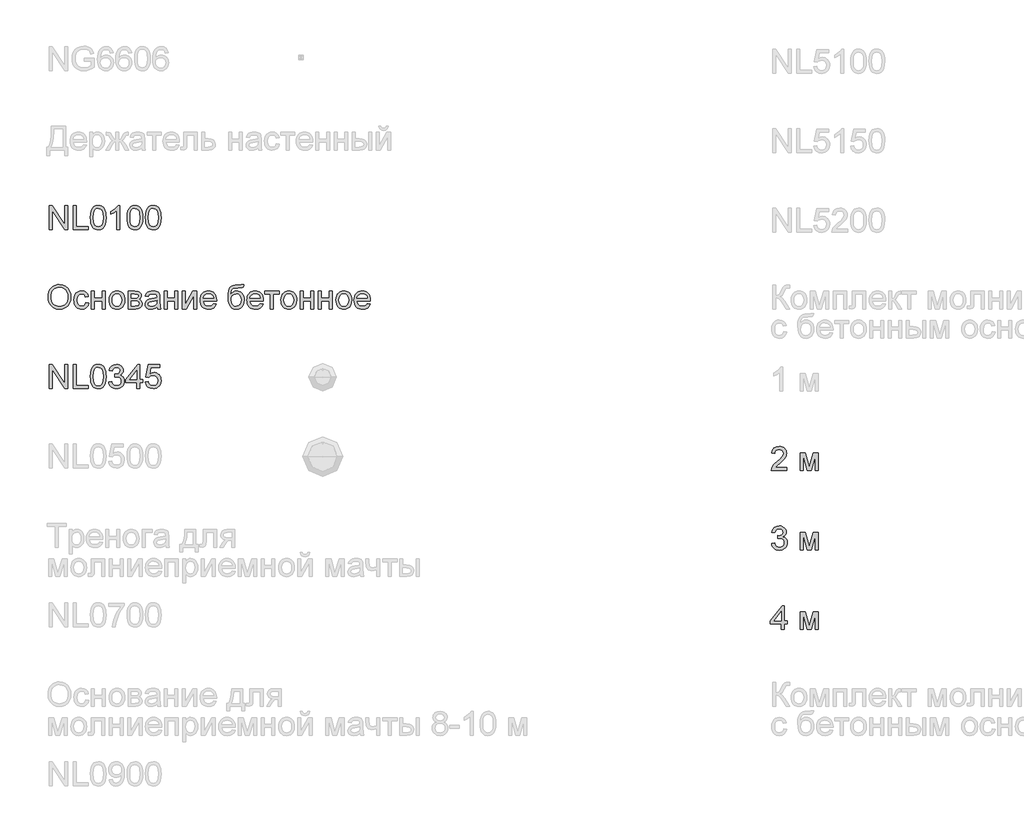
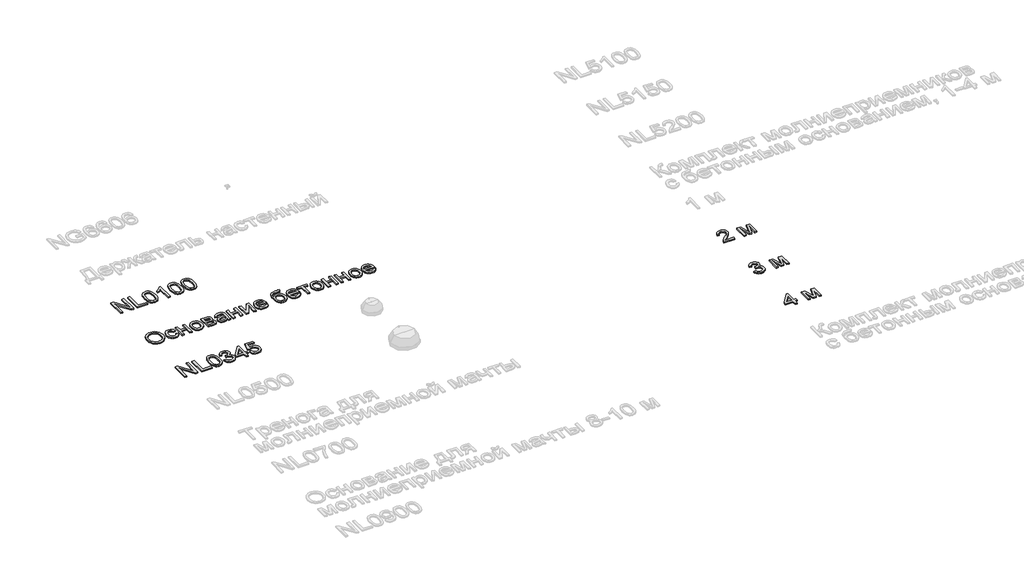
# One storey, part 58 of 124: 6 proxies.
"""IFC4 building model written with IfcOpenShell, lengths in millimetres."""

from ifc_helpers import new_model, si_unit, origin, origin_with_axes, place, context, project, spatial, polyline, outline, extrude, element, save

model = new_model("IFC4")

# Units and contexts
model_context = context("Model", 3, world=origin())
ifc_project = project(units=[si_unit("LENGTHUNIT", "METRE", prefix="MILLI")], contexts=[model_context])

# Site, building, storey
site = spatial("IfcSite", under=ifc_project)
building = spatial("IfcBuilding", under=site)
storey = spatial("IfcBuildingStorey", under=building, Name="Этаж 01", Elevation=0.0)

# Proxies
placement = place(None, origin())
element("IfcBuildingElementProxy", 1, Name="300", ObjectType="300", at=placement, inside=storey, context=model_context, shape_type="SweptSolid", body=[
    extrude(outline(polyline([(1285.6953991, -54927.7870223), (1288.2061937, -54892.4381611), (1295.7385775, -54861.1451989), (1308.2925506, -54833.9081357), (1325.868113, -54810.7269715), (1347.4122023, -54792.2179086), (1371.8717564, -54778.9971494), (1399.2467754, -54771.0646939), (1429.5372592, -54768.420542), (1469.0661796, -54773.3869489), (1504.5116098, -54788.2861698), (1533.9421694, -54812.0697407), (1555.4264779, -54843.6891982), (1568.5598652, -54881.6178319), (1572.9376609, -54924.3289316), (1568.3299389, -54967.6102483), (1554.506773, -55006.0723109), (1532.2315181, -55037.7469507), (1502.2675296, -55060.665999), (1467.1256021, -55074.5719384), (1429.31653, -55079.2072515), (1389.1806043, -55074.0844948), (1353.532839, -55058.7162244), (1324.1758558, -55034.491195), (1302.9122765, -55002.7981611), (1289.9996184, -54966.3318584), (1285.6953991, -54927.7870223)]), holes=[polyline([(1323.3665154, -54928.1549043), (1325.2496113, -54953.1294933), (1330.8988992, -54975.298982), (1340.3143791, -54994.6633705), (1353.4960508, -55011.2226588), (1369.5196109, -55024.4848048), (1387.460756, -55033.9577661), (1407.3194859, -55039.641543), (1429.0958008, -55041.5361352), (1451.2445962, -55039.6231489), (1471.3378509, -55033.8841897), (1489.375565, -55024.3192579), (1505.3577384, -55010.9283532), (1518.4428411, -54994.019577), (1527.7893431, -54973.9010304), (1533.3972442, -54950.5727134), (1535.2665446, -54924.034626), (1532.0659712, -54890.6861231), (1522.4642512, -54861.8625688), (1506.7097047, -54838.2905299), (1485.0506523, -54820.6965735), (1458.9218336, -54809.7428871), (1429.7579884, -54806.0916583), (1408.7381309, -54807.8505941), (1389.2357866, -54813.1274015), (1371.2509556, -54821.9220804), (1354.7836378, -54834.234631), (1341.0386467, -54850.6582628), (1331.220796, -54871.7861856), (1325.3300855, -54897.6183995), (1323.3665154, -54928.1549043)])]), origin_with_axes(), (0.0, 0.0, 1.0), 20.0),
    extrude(outline(polyline([(1761.2932424, -54994.4472399), (1798.9643587, -54999.1561294), (1788.4613278, -55032.6609821), (1768.7244587, -55057.9804604), (1741.6115557, -55073.9005538), (1708.9804227, -55079.2072515), (1687.8524999, -55077.3563453), (1668.9088764, -55071.8036264), (1652.1495523, -55062.5490949), (1637.5745275, -55049.5927509), (1625.7770117, -55033.1783162), (1617.3502148, -55013.5495125), (1612.2941366, -54990.7063398), (1610.6087772, -54964.6487982), (1613.4874538, -54931.1255514), (1622.1234837, -54902.0720709), (1636.6548225, -54878.6103966), (1657.219426, -54861.8625688), (1681.8215344, -54851.8193903), (1708.4653879, -54848.4716642), (1740.2963776, -54853.0701891), (1765.7446146, -54866.8657639), (1784.0007586, -54889.1226246), (1794.2554692, -54919.1050072), (1756.5843529, -54923.8138968), (1749.7509448, -54907.3787686), (1739.1099581, -54895.5973477), (1725.250004, -54888.5064223), (1708.7596935, -54886.1427805), (1684.4151025, -54890.7964877), (1665.0921007, -54904.7576094), (1652.4829453, -54928.7803037), (1648.2798935, -54963.6187287), (1652.3909748, -54998.9262031), (1664.7242187, -55023.0316709), (1683.6977326, -55036.9100191), (1707.7296239, -55041.5361352), (1727.2365667, -55038.6482616), (1743.2302365, -55029.9846406), (1754.8645046, -55015.3245431), (1761.2932424, -54994.4472399)])), origin_with_axes(), (0.0, 0.0, 1.0), 20.0),
    extrude(outline(polyline([(1831.9265855, -54853.1805537), (1869.5977018, -54853.1805537), (1869.5977018, -54937.9405654), (1968.4843821, -54937.9405654), (1968.4843821, -54853.1805537), (2006.1554984, -54853.1805537), (2006.1554984, -55074.498362), (1968.4843821, -55074.498362), (1968.4843821, -54975.6116817), (1869.5977018, -54975.6116817), (1869.5977018, -55074.498362), (1831.9265855, -55074.498362), (1831.9265855, -54853.1805537)])), origin_with_axes(), (0.0, 0.0, 1.0), 20.0),
    extrude(outline(polyline([(2053.2443938, -54963.8394579), (2055.2815404, -54935.1768519), (2061.39298, -54910.4781745), (2071.5787128, -54889.7434255), (2085.8387386, -54872.972605), (2100.1953335, -54862.2534434), (2116.0418504, -54854.5968994), (2133.3782894, -54850.002973), (2152.2046505, -54848.4716642), (2172.987684, -54850.336366), (2191.7795561, -54855.9304716), (2208.580267, -54865.2539809), (2223.3898166, -54878.306894), (2235.4770394, -54894.6477523), (2244.11077, -54913.8350977), (2249.2910083, -54935.8689299), (2251.0177544, -54960.7492491), (2247.9643339, -54998.8066415), (2238.8040722, -55027.7773486), (2223.8036838, -55049.4731893), (2203.2298832, -55065.7059823), (2178.7933217, -55075.8319342), (2152.2046505, -55079.2072515), (2131.1181144, -55077.3494475), (2112.1514983, -55071.7760352), (2095.3048022, -55062.4870149), (2080.5780261, -55049.4823863), (2068.619562, -55032.9828788), (2060.0778019, -55013.2092216), (2054.9527458, -54990.1614146), (2053.2443938, -54963.8394579)]), holes=[polyline([(2090.9155101, -54963.7658815), (2095.2749118, -54997.8593454), (2108.3531167, -55022.1487541), (2128.0348034, -55036.6892899), (2152.2046505, -55041.5361352), (2176.264133, -55036.6616988), (2195.9090315, -55022.0383895), (2208.9872365, -54997.427084), (2213.3466381, -54962.5886591), (2208.9596453, -54929.4884766), (2195.7986669, -54905.5301616), (2176.1261773, -54890.9896258), (2152.2046505, -54886.1427805), (2128.0348034, -54890.9712317), (2108.3531167, -54905.4565852), (2095.2749118, -54929.6908117), (2090.9155101, -54963.7658815)])]), origin_with_axes(), (0.0, 0.0, 1.0), 20.0),
    extrude(outline(polyline([(2293.3977603, -54853.1805537), (2376.3919384, -54853.1805537), (2403.0725801, -54854.4405495), (2421.8989412, -54858.220537), (2435.7496983, -54865.3574477), (2447.503528, -54876.6882132), (2455.5325526, -54891.4494783), (2458.2088941, -54908.8778878), (2456.5902133, -54922.9217829), (2451.734171, -54935.0342976), (2443.622373, -54945.2706141), (2432.2364252, -54953.6859148), (2446.1791529, -54961.5126042), (2457.5467065, -54974.1033655), (2465.1066815, -54990.4649173), (2467.6266732, -55009.6039781), (2461.2439206, -55038.3171678), (2446.0687883, -55058.5322834), (2422.046094, -55070.5068424), (2389.1206554, -55074.498362), (2293.3977603, -55074.498362), (2293.3977603, -54853.1805537)]), holes=[polyline([(2331.0688766, -55036.8272457), (2377.2748552, -55036.8272457), (2402.4563777, -55035.1257915), (2418.2569094, -55030.0214288), (2426.7365894, -55020.7416055), (2429.9555569, -55006.5137693), (2428.3460731, -54997.0867932), (2423.517622, -54988.3771869), (2416.1047998, -54981.562173), (2406.742203, -54977.8189737), (2373.5960352, -54975.6116817), (2331.0688766, -54975.6116817), (2331.0688766, -55036.8272457)]), polyline([(2331.0688766, -54937.9405654), (2368.2985345, -54937.9405654), (2399.0166811, -54936.027579), (2413.9526901, -54928.3756335), (2418.8915059, -54922.0480632), (2420.5377778, -54914.5432705), (2417.6499041, -54903.3044755), (2408.9862832, -54896.0755943), (2393.3329043, -54892.1576511), (2369.4757569, -54890.85167), (2331.0688766, -54890.85167), (2331.0688766, -54937.9405654)])]), origin_with_axes(), (0.0, 0.0, 1.0), 20.0),
    extrude(outline(polyline([(2655.9822547, -55046.2450248), (2637.9836281, -55061.6776745), (2619.4515726, -55071.7760352), (2599.9630239, -55077.3494475), (2579.0949177, -55079.2072515), (2547.613416, -55074.7374853), (2524.390865, -55061.3281866), (2510.0710584, -55040.9659181), (2505.2977895, -55015.6372428), (2507.1004113, -55000.0206521), (2512.5082766, -54985.8388012), (2520.8500008, -54973.6986953), (2531.4541993, -54964.2073398), (2557.8313384, -54951.8465048), (2590.4256832, -54946.1811221), (2628.9429281, -54940.2214338), (2655.7615255, -54933.2316759), (2655.9822547, -54924.8439664), (2653.3886866, -54908.0317592), (2645.6079824, -54897.0320875), (2628.2071641, -54888.8651072), (2603.9637406, -54886.1427805), (2581.5229389, -54887.9545993), (2565.8511659, -54893.3900558), (2555.1641939, -54903.4424313), (2547.6777953, -54919.1050072), (2510.006679, -54914.3961177), (2516.5457815, -54893.794726), (2526.3038514, -54877.6079182), (2540.1913967, -54865.228689), (2559.1189254, -54856.0500333), (2582.2678999, -54850.3662564), (2608.8197829, -54848.4716642), (2634.286414, -54850.1455272), (2654.4739385, -54855.1671165), (2669.6950561, -54862.7178944), (2680.2624664, -54871.9793237), (2687.2706184, -54883.4296508), (2691.813961, -54897.5471223), (2693.653371, -54930.5093491), (2693.653371, -54977.3775153), (2695.5663574, -55042.8237222), (2703.0711501, -55074.498362), (2665.4000338, -55074.498362), (2655.9822547, -55046.2450248)]), holes=[polyline([(2655.9822547, -54970.9027922), (2595.2081491, -54982.4542868), (2562.7977453, -54988.5611279), (2548.1192537, -54998.4939418), (2542.9689058, -55012.9884924), (2545.774006, -55024.1904992), (2554.1893066, -55033.3691549), (2568.0308667, -55039.4943902), (2587.1147452, -55041.5361352), (2607.348255, -55039.282858), (2625.2273199, -55032.5230264), (2639.7218705, -55022.5626213), (2649.8018372, -55010.707624), (2654.2716034, -54998.4939418), (2655.7615255, -54981.57137), (2655.9822547, -54970.9027922)])]), origin_with_axes(), (0.0, 0.0, 1.0), 20.0),
    extrude(outline(polyline([(2745.4511559, -54853.1805537), (2783.1222722, -54853.1805537), (2783.1222722, -54937.9405654), (2882.0089526, -54937.9405654), (2882.0089526, -54853.1805537), (2919.6800689, -54853.1805537), (2919.6800689, -55074.498362), (2882.0089526, -55074.498362), (2882.0089526, -54975.6116817), (2783.1222722, -54975.6116817), (2783.1222722, -55074.498362), (2745.4511559, -55074.498362), (2745.4511559, -54853.1805537)])), origin_with_axes(), (0.0, 0.0, 1.0), 20.0),
    extrude(outline(polyline([(2976.1867433, -54853.1805537), (3013.8578596, -54853.1805537), (3013.8578596, -55021.9648131), (3106.4169696, -54853.1805537), (3155.1245458, -54853.1805537), (3155.1245458, -55074.498362), (3117.4534295, -55074.498362), (3117.4534295, -54906.7441722), (3025.4829307, -55074.498362), (2976.1867433, -55074.498362), (2976.1867433, -54853.1805537)])), origin_with_axes(), (0.0, 0.0, 1.0), 20.0),
    extrude(outline(polyline([(3366.5831166, -55008.5739085), (3403.5184689, -55013.282798), (3390.2103377, -55041.1130709), (3368.9743496, -55061.9167978), (3340.288751, -55074.8846381), (3304.6317886, -55079.2072515), (3281.2574863, -55077.3425497), (3260.4307669, -55071.7484441), (3242.1516303, -55062.4249348), (3226.4200764, -55049.3720217), (3213.7695343, -55032.9529884), (3204.7334328, -55013.5311184), (3199.3117719, -54991.1064115), (3197.5045516, -54965.6788678), (3199.330166, -54939.3891007), (3204.8070092, -54916.2171336), (3213.9350812, -54896.1629663), (3226.714382, -54879.226599), (3242.4045491, -54865.771315), (3260.26522, -54856.1603979), (3280.2963946, -54850.3938476), (3302.498073, -54848.4716642), (3323.9846808, -54850.3892491), (3343.415748, -54856.1420038), (3360.7912744, -54865.7299283), (3376.1112603, -54879.1530226), (3388.6169488, -54896.0526017), (3397.5495835, -54916.0699808), (3402.9091644, -54939.2051598), (3404.6956913, -54965.4581386), (3404.4749621, -54975.6116817), (3235.1756679, -54975.6116817), (3241.6963763, -55003.8098366), (3256.8439174, -55024.5399871), (3278.705305, -55037.2870982), (3305.3675526, -55041.5361352), (3325.4171213, -55039.5679666), (3342.3029049, -55033.6634605), (3356.0249033, -55023.4547352), (3366.5831166, -55008.5739085)]), holes=[polyline([(3235.1756679, -54937.9405654), (3367.024575, -54937.9405654), (3361.9294094, -54918.0381495), (3351.9414132, -54903.8011162), (3329.9788581, -54890.5573644), (3302.3509202, -54886.1427805), (3276.9578655, -54889.6652506), (3255.9610006, -54900.2326609), (3241.3652825, -54916.7045772), (3235.1756679, -54937.9405654)])]), origin_with_axes(), (0.0, 0.0, 1.0), 20.0),
    extrude(outline(polyline([(3715.4824008, -54768.420542), (3748.4446276, -54768.420542), (3744.8761722, -54786.3271981), (3738.7325429, -54797.8143134), (3730.2160747, -54804.6109333), (3719.5291028, -54808.4461031), (3673.3967006, -54810.8005479), (3635.0909878, -54812.9710516), (3611.2614316, -54819.4825629), (3597.0060043, -54830.7765402), (3587.4226783, -54847.2944418), (3581.7848867, -54869.1650264), (3579.3660626, -54896.5170527), (3594.5136038, -54875.4742026), (3611.9971956, -54860.4646172), (3631.8352322, -54851.4699024), (3654.0461076, -54848.4716642), (3674.5693244, -54850.3777528), (3693.2439342, -54856.0960185), (3710.069937, -54865.6264615), (3725.0473327, -54878.9690816), (3737.3437884, -54895.5628588), (3746.126971, -54914.8467731), (3751.3968806, -54936.8208246), (3753.1535171, -54961.4850131), (3749.6678352, -54997.4454781), (3739.2107895, -55026.3058206), (3723.9712779, -55048.7374253), (3706.1381981, -55065.4116767), (3683.5502436, -55075.7583578), (3654.0461076, -55079.2072515), (3620.0446142, -55074.7650764), (3594.559589, -55061.4385512), (3575.8068043, -55041.1866473), (3562.0020324, -55015.9683366), (3553.5039583, -54977.9937176), (3550.671267, -54919.4728892), (3552.4577939, -54879.8083124), (3557.8173747, -54847.1932742), (3566.7500094, -54821.6277748), (3579.255698, -54803.1118142), (3595.4677977, -54789.9945218), (3615.5196657, -54780.6250272), (3639.411302, -54775.0033305), (3667.1427067, -54773.1294316), (3709.0812541, -54772.283303), (3715.4824008, -54768.420542)]), holes=[polyline([(3715.4824008, -54960.3077907), (3711.3989107, -54930.6656989), (3699.1484402, -54906.9281132), (3679.4667535, -54891.3391137), (3653.0896144, -54886.1427805), (3625.5904353, -54891.6334192), (3614.5033917, -54898.4967177), (3605.1913787, -54908.1053356), (3592.5546321, -54933.7559077), (3588.3423833, -54966.7825138), (3592.9960905, -54998.7974444), (3606.9572122, -55022.2959069), (3627.742545, -55036.7260781), (3652.8688852, -55041.5361352), (3678.1239842, -55035.9719201), (3698.1183707, -55019.2792745), (3711.1413933, -54993.4079732), (3715.4824008, -54960.3077907)])]), origin_with_axes(), (0.0, 0.0, 1.0), 20.0),
    extrude(outline(polyline([(3955.1943089, -55008.5739085), (3992.1296612, -55013.282798), (3978.82153, -55041.1130709), (3957.5855418, -55061.9167978), (3928.8999433, -55074.8846381), (3893.2429809, -55079.2072515), (3869.8686786, -55077.3425497), (3849.0419592, -55071.7484441), (3830.7628225, -55062.4249348), (3815.0312687, -55049.3720217), (3802.3807266, -55032.9529884), (3793.3446251, -55013.5311184), (3787.9229642, -54991.1064115), (3786.1157439, -54965.6788678), (3787.9413583, -54939.3891007), (3793.4182015, -54916.2171336), (3802.5462735, -54896.1629663), (3815.3255743, -54879.226599), (3831.0157414, -54865.771315), (3848.8764123, -54856.1603979), (3868.9075869, -54850.3938476), (3891.1092653, -54848.4716642), (3912.5958731, -54850.3892491), (3932.0269402, -54856.1420038), (3949.4024667, -54865.7299283), (3964.7224526, -54879.1530226), (3977.2281411, -54896.0526017), (3986.1607758, -54916.0699808), (3991.5203566, -54939.2051598), (3993.3068836, -54965.4581386), (3993.0861544, -54975.6116817), (3823.7868602, -54975.6116817), (3830.3075686, -55003.8098366), (3845.4551097, -55024.5399871), (3867.3164973, -55037.2870982), (3893.9787449, -55041.5361352), (3914.0283136, -55039.5679666), (3930.9140972, -55033.6634605), (3944.6360956, -55023.4547352), (3955.1943089, -55008.5739085)]), holes=[polyline([(3823.7868602, -54937.9405654), (3955.6357673, -54937.9405654), (3950.5406016, -54918.0381495), (3940.5526055, -54903.8011162), (3918.5900504, -54890.5573644), (3890.9621125, -54886.1427805), (3865.5690578, -54889.6652506), (3844.5721929, -54900.2326609), (3829.9764748, -54916.7045772), (3823.7868602, -54937.9405654)])]), origin_with_axes(), (0.0, 0.0, 1.0), 20.0),
    extrude(outline(polyline([(4012.1424417, -54853.1805537), (4191.0802442, -54853.1805537), (4191.0802442, -54890.85167), (4120.4469011, -54890.85167), (4120.4469011, -55074.498362), (4082.7757848, -55074.498362), (4082.7757848, -54890.85167), (4012.1424417, -54890.85167), (4012.1424417, -54853.1805537)])), origin_with_axes(), (0.0, 0.0, 1.0), 20.0),
    extrude(outline(polyline([(4214.6246919, -54963.8394579), (4216.6618384, -54935.1768519), (4222.7732781, -54910.4781745), (4232.9590108, -54889.7434255), (4247.2190367, -54872.972605), (4261.5756315, -54862.2534434), (4277.4221485, -54854.5968994), (4294.7585875, -54850.002973), (4313.5849486, -54848.4716642), (4334.367982, -54850.336366), (4353.1598542, -54855.9304716), (4369.9605651, -54865.2539809), (4384.7701146, -54878.306894), (4396.8573375, -54894.6477523), (4405.491068, -54913.8350977), (4410.6713064, -54935.8689299), (4412.3980525, -54960.7492491), (4409.3446319, -54998.8066415), (4400.1843702, -55027.7773486), (4385.1839819, -55049.4731893), (4364.6101813, -55065.7059823), (4340.1736198, -55075.8319342), (4313.5849486, -55079.2072515), (4292.4984125, -55077.3494475), (4273.5317964, -55071.7760352), (4256.6851002, -55062.4870149), (4241.9583241, -55049.4823863), (4229.99986, -55032.9828788), (4221.4580999, -55013.2092216), (4216.3330439, -54990.1614146), (4214.6246919, -54963.8394579)]), holes=[polyline([(4252.2958082, -54963.7658815), (4256.6552098, -54997.8593454), (4269.7334148, -55022.1487541), (4289.4151015, -55036.6892899), (4313.5849486, -55041.5361352), (4337.6444311, -55036.6616988), (4357.2893296, -55022.0383895), (4370.3675345, -54997.427084), (4374.7269362, -54962.5886591), (4370.3399434, -54929.4884766), (4357.178965, -54905.5301616), (4337.5064753, -54890.9896258), (4313.5849486, -54886.1427805), (4289.4151015, -54890.9712317), (4269.7334148, -54905.4565852), (4256.6552098, -54929.6908117), (4252.2958082, -54963.7658815)])]), origin_with_axes(), (0.0, 0.0, 1.0), 20.0),
    extrude(outline(polyline([(4454.7780583, -54853.1805537), (4492.4491746, -54853.1805537), (4492.4491746, -54937.9405654), (4591.3358549, -54937.9405654), (4591.3358549, -54853.1805537), (4629.0069712, -54853.1805537), (4629.0069712, -55074.498362), (4591.3358549, -55074.498362), (4591.3358549, -54975.6116817), (4492.4491746, -54975.6116817), (4492.4491746, -55074.498362), (4454.7780583, -55074.498362), (4454.7780583, -54853.1805537)])), origin_with_axes(), (0.0, 0.0, 1.0), 20.0),
    extrude(outline(polyline([(4685.5136457, -54853.1805537), (4723.184762, -54853.1805537), (4723.184762, -54937.9405654), (4822.0714423, -54937.9405654), (4822.0714423, -54853.1805537), (4859.7425586, -54853.1805537), (4859.7425586, -55074.498362), (4822.0714423, -55074.498362), (4822.0714423, -54975.6116817), (4723.184762, -54975.6116817), (4723.184762, -55074.498362), (4685.5136457, -55074.498362), (4685.5136457, -54853.1805537)])), origin_with_axes(), (0.0, 0.0, 1.0), 20.0),
    extrude(outline(polyline([(4906.831454, -54963.8394579), (4908.8686006, -54935.1768519), (4914.9800402, -54910.4781745), (4925.1657729, -54889.7434255), (4939.4257988, -54872.972605), (4953.7823936, -54862.2534434), (4969.6289106, -54854.5968994), (4986.9653496, -54850.002973), (5005.7917107, -54848.4716642), (5026.5747442, -54850.336366), (5045.3666163, -54855.9304716), (5062.1673272, -54865.2539809), (5076.9768768, -54878.306894), (5089.0640996, -54894.6477523), (5097.6978302, -54913.8350977), (5102.8780685, -54935.8689299), (5104.6048146, -54960.7492491), (5101.5513941, -54998.8066415), (5092.3911324, -55027.7773486), (5077.390744, -55049.4731893), (5056.8169434, -55065.7059823), (5032.3803819, -55075.8319342), (5005.7917107, -55079.2072515), (4984.7051746, -55077.3494475), (4965.7385585, -55071.7760352), (4948.8918624, -55062.4870149), (4934.1650862, -55049.4823863), (4922.2066221, -55032.9828788), (4913.6648621, -55013.2092216), (4908.539806, -54990.1614146), (4906.831454, -54963.8394579)]), holes=[polyline([(4944.5025703, -54963.7658815), (4948.861972, -54997.8593454), (4961.9401769, -55022.1487541), (4981.6218636, -55036.6892899), (5005.7917107, -55041.5361352), (5029.8511932, -55036.6616988), (5049.4960917, -55022.0383895), (5062.5742967, -54997.427084), (5066.9336983, -54962.5886591), (5062.5467055, -54929.4884766), (5049.3857271, -54905.5301616), (5029.7132374, -54890.9896258), (5005.7917107, -54886.1427805), (4981.6218636, -54890.9712317), (4961.9401769, -54905.4565852), (4948.861972, -54929.6908117), (4944.5025703, -54963.7658815)])]), origin_with_axes(), (0.0, 0.0, 1.0), 20.0),
    extrude(outline(polyline([(5301.9367168, -55008.5739085), (5338.8720691, -55013.282798), (5325.563938, -55041.1130709), (5304.3279498, -55061.9167978), (5275.6423512, -55074.8846381), (5239.9853888, -55079.2072515), (5216.6110866, -55077.3425497), (5195.7843671, -55071.7484441), (5177.5052305, -55062.4249348), (5161.7736767, -55049.3720217), (5149.1231346, -55032.9529884), (5140.087033, -55013.5311184), (5134.6653721, -54991.1064115), (5132.8581518, -54965.6788678), (5134.6837662, -54939.3891007), (5140.1606094, -54916.2171336), (5149.2886814, -54896.1629663), (5162.0679823, -54879.226599), (5177.7581494, -54865.771315), (5195.6188202, -54856.1603979), (5215.6499949, -54850.3938476), (5237.8516733, -54848.4716642), (5259.338281, -54850.3892491), (5278.7693482, -54856.1420038), (5296.1448747, -54865.7299283), (5311.4648605, -54879.1530226), (5323.9705491, -54896.0526017), (5332.9031838, -54916.0699808), (5338.2627646, -54939.2051598), (5340.0492915, -54965.4581386), (5339.8285623, -54975.6116817), (5170.5292681, -54975.6116817), (5177.0499765, -55003.8098366), (5192.1975177, -55024.5399871), (5214.0589052, -55037.2870982), (5240.7211528, -55041.5361352), (5260.7707216, -55039.5679666), (5277.6565051, -55033.6634605), (5291.3785036, -55023.4547352), (5301.9367168, -55008.5739085)]), holes=[polyline([(5170.5292681, -54937.9405654), (5302.3781752, -54937.9405654), (5297.2830096, -54918.0381495), (5287.2950134, -54903.8011162), (5265.3324583, -54890.5573644), (5237.7045205, -54886.1427805), (5212.3114657, -54889.6652506), (5191.3146009, -54900.2326609), (5176.7188827, -54916.7045772), (5170.5292681, -54937.9405654)])]), origin_with_axes(), (0.0, 0.0, 1.0), 20.0),
])
element("IfcBuildingElementProxy", 2, Name="300", ObjectType="300", at=placement, inside=storey, context=model_context, shape_type="SweptSolid", body=[
    extrude(outline(polyline([(1299.8220677, -56074.498362), (1299.8220677, -55773.1294316), (1340.1419344, -55773.1294316), (1497.5954283, -56011.8848464), (1497.5954283, -55773.1294316), (1535.2665446, -55773.1294316), (1535.2665446, -56074.498362), (1494.9466779, -56074.498362), (1337.493184, -55835.6693707), (1337.493184, -56074.498362), (1299.8220677, -56074.498362)])), origin_with_axes(), (0.0, 0.0, 1.0), 20.0),
    extrude(outline(polyline([(1601.1909981, -56074.498362), (1601.1909981, -55773.1294316), (1638.8621144, -55773.1294316), (1638.8621144, -56036.8272457), (1789.5465797, -56036.8272457), (1789.5465797, -56074.498362), (1601.1909981, -56074.498362)])), origin_with_axes(), (0.0, 0.0, 1.0), 20.0),
    extrude(outline(polyline([(1817.7999169, -55926.2419179), (1820.5682289, -55878.0033913), (1828.873165, -55839.5321317), (1842.6319516, -55810.2395278), (1861.7618153, -55789.5369685), (1886.400712, -55777.2313158), (1916.6865972, -55773.1294316), (1939.8999511, -55775.5574527), (1960.6852838, -55782.8415162), (1978.0677081, -55794.6965135), (1991.0723366, -55810.8373361), (2000.8947859, -55831.1260281), (2008.7306724, -55855.4246339), (2013.8626262, -55886.2807362), (2015.5732775, -55926.2419179), (2012.8325566, -55974.2045331), (2004.6103941, -56012.5838222), (1990.9343809, -56041.9040172), (1971.8321083, -56062.68935), (1947.1380294, -56075.0777761), (1916.6865972, -56079.2072515), (1895.9380527, -56077.4138268), (1877.5439529, -56072.0335526), (1861.5042979, -56063.066429), (1847.8190877, -56050.5124559), (1834.6857005, -56027.8187353), (1825.3047096, -55999.5424055), (1819.6761151, -55965.6834664), (1817.7999169, -55926.2419179)]), holes=[polyline([(1855.4710332, -55926.1683415), (1859.8856172, -55985.4249339), (1865.4038471, -56005.6929326), (1873.129369, -56019.7207329), (1892.8478439, -56036.0822847), (1916.6865972, -56041.5361352), (1940.5253505, -56036.0638906), (1960.2438254, -56019.6471565), (1967.9693473, -56005.5963636), (1973.4875773, -55985.3329634), (1977.9021612, -55926.1683415), (1973.6347301, -55868.2453214), (1968.3004411, -55848.0440013), (1960.8324366, -55833.682808), (1941.1507499, -55816.5211129), (1916.2451388, -55810.8005479), (1892.6639029, -55815.8405312), (1873.7179802, -55830.9604812), (1865.7349409, -55846.595466), (1860.0327699, -55867.6751043), (1855.4710332, -55926.1683415)])]), origin_with_axes(), (0.0, 0.0, 1.0), 20.0),
    extrude(outline(polyline([(2048.5355043, -55994.4472399), (2086.2066206, -55989.7383503), (2094.6403153, -56013.4115567), (2106.9919533, -56029.3960294), (2123.8685398, -56038.5011088), (2145.8770802, -56041.5361352), (2171.7023963, -56037.3606746), (2191.6416004, -56024.8342927), (2204.3887115, -56006.1458873), (2208.6377486, -55983.4843564), (2204.4254997, -55961.9724567), (2191.7887532, -55944.5256531), (2172.6588895, -55932.9649614), (2148.967289, -55929.1113975), (2122.5533617, -55933.2316759), (2126.7472165, -55895.5605595), (2132.7804812, -55896.0020179), (2155.3500416, -55893.2980853), (2175.528369, -55885.1862873), (2189.7654022, -55871.4642889), (2194.51108, -55851.9297549), (2191.0713833, -55835.6601737), (2180.7522933, -55822.4624071), (2165.006944, -55813.7160127), (2145.288469, -55810.8005479), (2125.5332059, -55813.7436038), (2109.3831863, -55822.5727717), (2097.5925683, -55837.2880515), (2090.9155101, -55857.8894432), (2053.2443938, -55853.1805537), (2064.336036, -55819.3538042), (2084.072905, -55794.0987053), (2111.0754435, -55778.37175), (2143.9640938, -55773.1294316), (2167.6464973, -55775.7138026), (2189.3975202, -55783.4669156), (2207.7364377, -55795.698992), (2221.1825246, -55811.7202528), (2229.4322784, -55830.178732), (2232.1821963, -55849.7224629), (2229.5702341, -55867.9326217), (2221.7343476, -55884.4505233), (2208.7849014, -55898.5220096), (2190.83226, -55909.3929226), (2214.4134959, -55918.9210662), (2231.8878907, -55935.1446622), (2242.7036213, -55957.1807937), (2246.3088649, -55984.146544), (2244.5062431, -56003.2580136), (2239.0983778, -56020.8611671), (2230.0852689, -56036.9560044), (2217.4669165, -56051.5425255), (2202.0940476, -56063.6458431), (2184.8173894, -56072.29107), (2165.6369419, -56077.4782062), (2144.552705, -56079.2072515), (2125.4964177, -56077.731125), (2108.1323875, -56073.3027455), (2092.4606145, -56065.922113), (2078.4810987, -56055.5892274), (2066.7594586, -56042.9110942), (2057.8613129, -56028.4947185), (2051.7866614, -56012.3401004), (2048.5355043, -55994.4472399)])), origin_with_axes(), (0.0, 0.0, 1.0), 20.0),
    extrude(outline(polyline([(2401.7022196, -56074.498362), (2401.7022196, -56003.8650189), (2265.144423, -56003.8650189), (2265.144423, -55966.1939026), (2411.1199987, -55777.8383211), (2439.373336, -55777.8383211), (2439.373336, -55966.1939026), (2477.0444523, -55966.1939026), (2477.0444523, -56003.8650189), (2439.373336, -56003.8650189), (2439.373336, -56074.498362), (2401.7022196, -56074.498362)]), holes=[polyline([(2401.7022196, -55966.1939026), (2401.7022196, -55849.7960393), (2311.4975544, -55966.1939026), (2401.7022196, -55966.1939026)])]), origin_with_axes(), (0.0, 0.0, 1.0), 20.0),
    extrude(outline(polyline([(2510.006679, -55994.4472399), (2547.6777953, -55989.7383503), (2554.5939768, -56012.353896), (2566.6605063, -56028.5499008), (2583.8222014, -56038.2895766), (2606.0238798, -56041.5361352), (2633.0264182, -56037.0203837), (2653.2599279, -56023.4731293), (2665.8966745, -56002.4578703), (2670.1089233, -55975.5381053), (2666.1633889, -55950.1910358), (2654.3267857, -55930.8036547), (2634.5071432, -55918.4980019), (2606.612491, -55914.3961177), (2588.3379529, -55916.0331926), (2573.5398996, -55920.9444172), (2552.3866849, -55937.9405654), (2514.7155686, -55933.2316759), (2547.6777953, -55777.8383211), (2693.653371, -55777.8383211), (2693.653371, -55815.5094374), (2578.1384245, -55815.5094374), (2562.0251931, -55898.5036155), (2588.9357611, -55882.1696549), (2617.133916, -55876.7250014), (2635.4797313, -55878.41266), (2652.3310259, -55883.475636), (2667.6877999, -55891.9139293), (2681.5500534, -55903.7275398), (2693.0256724, -55918.1944993), (2701.2225431, -55934.5928392), (2706.1406655, -55952.9225596), (2707.7800396, -55973.1836605), (2701.8755336, -56010.8547768), (2694.4949011, -56027.6485899), (2684.1620155, -56043.0812396), (2668.5086366, -56058.8863698), (2650.2432956, -56070.1757486), (2629.3659924, -56076.9493758), (2605.876727, -56079.2072515), (2568.8769953, -56073.4039131), (2553.1983245, -56066.14974), (2539.4004504, -56055.9938976), (2527.9202329, -56043.4422238), (2519.1945319, -56029.0005562), (2510.006679, -55994.4472399)])), origin_with_axes(), (0.0, 0.0, 1.0), 20.0),
])
element("IfcBuildingElementProxy", 3, Name="300", ObjectType="300", at=placement, inside=storey, context=model_context, shape_type="SweptSolid", body=[
    extrude(outline(polyline([(1299.8220677, -54074.498362), (1299.8220677, -53773.1294316), (1340.1419344, -53773.1294316), (1497.5954283, -54011.8848464), (1497.5954283, -53773.1294316), (1535.2665446, -53773.1294316), (1535.2665446, -54074.498362), (1494.9466779, -54074.498362), (1337.493184, -53835.6693707), (1337.493184, -54074.498362), (1299.8220677, -54074.498362)])), origin_with_axes(), (0.0, 0.0, 1.0), 20.0),
    extrude(outline(polyline([(1601.1909981, -54074.498362), (1601.1909981, -53773.1294316), (1638.8621144, -53773.1294316), (1638.8621144, -54036.8272457), (1789.5465797, -54036.8272457), (1789.5465797, -54074.498362), (1601.1909981, -54074.498362)])), origin_with_axes(), (0.0, 0.0, 1.0), 20.0),
    extrude(outline(polyline([(1817.7999169, -53926.2419179), (1820.5682289, -53878.0033913), (1828.873165, -53839.5321317), (1842.6319516, -53810.2395278), (1861.7618153, -53789.5369685), (1886.400712, -53777.2313158), (1916.6865972, -53773.1294316), (1939.8999511, -53775.5574527), (1960.6852838, -53782.8415162), (1978.0677081, -53794.6965135), (1991.0723366, -53810.8373361), (2000.8947859, -53831.1260281), (2008.7306724, -53855.4246339), (2013.8626262, -53886.2807362), (2015.5732775, -53926.2419179), (2012.8325566, -53974.2045331), (2004.6103941, -54012.5838222), (1990.9343809, -54041.9040172), (1971.8321083, -54062.68935), (1947.1380294, -54075.0777761), (1916.6865972, -54079.2072515), (1895.9380527, -54077.4138268), (1877.5439529, -54072.0335526), (1861.5042979, -54063.066429), (1847.8190877, -54050.5124559), (1834.6857005, -54027.8187353), (1825.3047096, -53999.5424055), (1819.6761151, -53965.6834664), (1817.7999169, -53926.2419179)]), holes=[polyline([(1855.4710332, -53926.1683415), (1859.8856172, -53985.4249339), (1865.4038471, -54005.6929326), (1873.129369, -54019.7207329), (1892.8478439, -54036.0822847), (1916.6865972, -54041.5361352), (1940.5253505, -54036.0638906), (1960.2438254, -54019.6471565), (1967.9693473, -54005.5963636), (1973.4875773, -53985.3329634), (1977.9021612, -53926.1683415), (1973.6347301, -53868.2453214), (1968.3004411, -53848.0440013), (1960.8324366, -53833.682808), (1941.1507499, -53816.5211129), (1916.2451388, -53810.8005479), (1892.6639029, -53815.8405312), (1873.7179802, -53830.9604812), (1865.7349409, -53846.595466), (1860.0327699, -53867.6751043), (1855.4710332, -53926.1683415)])]), origin_with_axes(), (0.0, 0.0, 1.0), 20.0),
    extrude(outline(polyline([(2189.8021904, -54074.498362), (2152.1310741, -54074.498362), (2152.1310741, -53839.6424963), (2116.4465206, -53865.0631421), (2076.7888415, -53884.0826413), (2076.7888415, -53848.4716642), (2106.375751, -53832.3768269), (2132.007929, -53813.228569), (2152.2138476, -53792.8663006), (2165.5219787, -53773.1294316), (2189.8021904, -53773.1294316), (2189.8021904, -54074.498362)])), origin_with_axes(), (0.0, 0.0, 1.0), 20.0),
    extrude(outline(polyline([(2279.2710917, -53926.2419179), (2282.0394037, -53878.0033913), (2290.3443397, -53839.5321317), (2304.1031263, -53810.2395278), (2323.2329901, -53789.5369685), (2347.8718867, -53777.2313158), (2378.157772, -53773.1294316), (2401.3711259, -53775.5574527), (2422.1564586, -53782.8415162), (2439.5388829, -53794.6965135), (2452.5435114, -53810.8373361), (2462.3659607, -53831.1260281), (2470.2018471, -53855.4246339), (2475.333801, -53886.2807362), (2477.0444523, -53926.2419179), (2474.3037314, -53974.2045331), (2466.0815688, -54012.5838222), (2452.4055556, -54041.9040172), (2433.303283, -54062.68935), (2408.6092041, -54075.0777761), (2378.157772, -54079.2072515), (2357.4092274, -54077.4138268), (2339.0151277, -54072.0335526), (2322.9754727, -54063.066429), (2309.2902625, -54050.5124559), (2296.1568752, -54027.8187353), (2286.7758844, -53999.5424055), (2281.1472898, -53965.6834664), (2279.2710917, -53926.2419179)]), holes=[polyline([(2316.942208, -53926.1683415), (2321.3567919, -53985.4249339), (2326.8750218, -54005.6929326), (2334.6005437, -54019.7207329), (2354.3190187, -54036.0822847), (2378.157772, -54041.5361352), (2401.9965252, -54036.0638906), (2421.7150002, -54019.6471565), (2429.4405221, -54005.5963636), (2434.958752, -53985.3329634), (2439.373336, -53926.1683415), (2435.1059048, -53868.2453214), (2429.7716159, -53848.0440013), (2422.3036114, -53833.682808), (2402.6219246, -53816.5211129), (2377.7163136, -53810.8005479), (2354.1350777, -53815.8405312), (2335.1891549, -53830.9604812), (2327.2061156, -53846.595466), (2321.5039447, -53867.6751043), (2316.942208, -53926.1683415)])]), origin_with_axes(), (0.0, 0.0, 1.0), 20.0),
    extrude(outline(polyline([(2510.006679, -53926.2419179), (2512.774991, -53878.0033913), (2521.0799271, -53839.5321317), (2534.8387137, -53810.2395278), (2553.9685775, -53789.5369685), (2578.6074741, -53777.2313158), (2608.8933593, -53773.1294316), (2632.1067132, -53775.5574527), (2652.892046, -53782.8415162), (2670.2744702, -53794.6965135), (2683.2790988, -53810.8373361), (2693.101548, -53831.1260281), (2700.9374345, -53855.4246339), (2706.0693884, -53886.2807362), (2707.7800396, -53926.2419179), (2705.0393188, -53974.2045331), (2696.8171562, -54012.5838222), (2683.141143, -54041.9040172), (2664.0388704, -54062.68935), (2639.3447915, -54075.0777761), (2608.8933593, -54079.2072515), (2588.1448148, -54077.4138268), (2569.750715, -54072.0335526), (2553.7110601, -54063.066429), (2540.0258498, -54050.5124559), (2526.8924626, -54027.8187353), (2517.5114717, -53999.5424055), (2511.8828772, -53965.6834664), (2510.006679, -53926.2419179)]), holes=[polyline([(2547.6777953, -53926.1683415), (2552.0923793, -53985.4249339), (2557.6106092, -54005.6929326), (2565.3361311, -54019.7207329), (2585.054606, -54036.0822847), (2608.8933593, -54041.5361352), (2632.7321126, -54036.0638906), (2652.4505876, -54019.6471565), (2660.1761095, -54005.5963636), (2665.6943394, -53985.3329634), (2670.1089233, -53926.1683415), (2665.8414922, -53868.2453214), (2660.5072033, -53848.0440013), (2653.0391988, -53833.682808), (2633.357512, -53816.5211129), (2608.4519009, -53810.8005479), (2584.870665, -53815.8405312), (2565.9247423, -53830.9604812), (2557.941703, -53846.595466), (2552.2395321, -53867.6751043), (2547.6777953, -53926.1683415)])]), origin_with_axes(), (0.0, 0.0, 1.0), 20.0),
])
element("IfcBuildingElementProxy", 4, Name="300", ObjectType="300", at=placement, inside=storey, context=model_context, shape_type="SweptSolid", body=[
    extrude(outline(polyline([(10578.7598701, -57069.7894725), (10578.7598701, -57107.4605888), (10380.9865095, -57107.4605888), (10385.0332115, -57081.4881199), (10394.3222319, -57061.1902308), (10407.9154716, -57041.499347), (10427.5787642, -57020.8887583), (10455.0779434, -56997.8317542), (10495.7289038, -56961.7241364), (10520.1194801, -56935.0710858), (10532.3147683, -56913.4396245), (10536.3798643, -56892.3967744), (10532.5446945, -56873.5336251), (10521.0391851, -56857.852655), (10503.3532582, -56847.2852447), (10480.9768358, -56843.7627746), (10457.4783734, -56847.2024713), (10439.2222294, -56857.5215612), (10427.4408085, -56873.9107041), (10423.3665154, -56895.5605595), (10385.6953991, -56890.85167), (10394.8280696, -56854.4129584), (10403.3744282, -56839.8770211), (10414.5741357, -56827.796696), (10428.1696747, -56818.300742), (10443.9035278, -56811.5179177), (10481.7861762, -56806.0916583), (10501.976, -56807.5999745), (10519.9447362, -56812.124923), (10535.6923848, -56819.6665039), (10549.2189459, -56830.2247172), (10560.0829611, -56843.0178136), (10567.8429719, -56857.2640439), (10572.4989784, -56872.963408), (10574.0509806, -56890.115906), (10572.3771175, -56908.1329267), (10567.3555283, -56925.8372478), (10558.443587, -56943.8450714), (10545.0986676, -56962.7726001), (10523.8258912, -56985.3697516), (10491.1303789, -57014.386444), (10447.7938799, -57050.6228205), (10430.7977317, -57069.7894725), (10578.7598701, -57069.7894725)])), origin_with_axes(), (0.0, 0.0, 1.0), 20.0),
    extrude(outline(polyline([(10743.571004, -56886.1427805), (10808.3918115, -56886.1427805), (10858.3501865, -57063.3147493), (10912.2081106, -56886.1427805), (10974.3065914, -56886.1427805), (10974.3065914, -57107.4605888), (10936.6354751, -57107.4605888), (10936.6354751, -56929.2585503), (10882.4832454, -57107.4605888), (10833.0399052, -57107.4605888), (10781.2421203, -56920.723688), (10781.2421203, -57107.4605888), (10743.571004, -57107.4605888), (10743.571004, -56886.1427805)])), origin_with_axes(), (0.0, 0.0, 1.0), 20.0),
])
element("IfcBuildingElementProxy", 5, Name="300", ObjectType="300", at=placement, inside=storey, context=model_context, shape_type="SweptSolid", body=[
    extrude(outline(polyline([(10385.6953991, -58027.4094666), (10423.3665154, -58022.7005771), (10431.8002101, -58046.3737835), (10444.1518481, -58062.3582562), (10461.0284346, -58071.4633355), (10483.036975, -58074.498362), (10508.8622911, -58070.3229014), (10528.8014952, -58057.7965194), (10541.5486063, -58039.1081141), (10545.7976434, -58016.4465832), (10541.5853945, -57994.9346835), (10528.948648, -57977.4878799), (10509.8187843, -57965.9271882), (10486.1271838, -57962.0736243), (10459.7132565, -57966.1939026), (10463.9071113, -57928.5227863), (10469.940376, -57928.9642447), (10492.5099364, -57926.260312), (10512.6882638, -57918.1485141), (10526.925297, -57904.4265156), (10531.6709748, -57884.8919817), (10528.2312781, -57868.6224005), (10517.9121881, -57855.4246339), (10502.1668388, -57846.6782394), (10482.4483638, -57843.7627746), (10462.6931007, -57846.7058306), (10446.5430811, -57855.5349985), (10434.7524631, -57870.2502783), (10428.0754049, -57890.85167), (10390.4042886, -57886.1427805), (10401.4959308, -57852.316031), (10421.2327998, -57827.060932), (10448.2353383, -57811.3339768), (10481.1239886, -57806.0916583), (10504.8063921, -57808.6760293), (10526.557415, -57816.4291424), (10544.8963325, -57828.6612187), (10558.3424194, -57844.6824796), (10566.5921732, -57863.1409587), (10569.3420911, -57882.6846897), (10566.7301289, -57900.8948485), (10558.8942424, -57917.4127501), (10545.9447962, -57931.4842364), (10527.9921548, -57942.3551493), (10551.5733907, -57951.883293), (10569.0477855, -57968.106889), (10579.8635161, -57990.1430205), (10583.4687597, -58017.1087708), (10581.6661379, -58036.2202404), (10576.2582726, -58053.8233939), (10567.2451637, -58069.9182312), (10554.6268113, -58084.5047523), (10539.2539424, -58096.6080699), (10521.9772842, -58105.2532968), (10502.7968367, -58110.4404329), (10481.7125998, -58112.1694783), (10462.6563125, -58110.6933518), (10445.2922823, -58106.2649723), (10429.6205093, -58098.8843398), (10415.6409935, -58088.5514542), (10403.9193534, -58075.873321), (10395.0212077, -58061.4569453), (10388.9465562, -58045.3023272), (10385.6953991, -58027.4094666)])), origin_with_axes(), (0.0, 0.0, 1.0), 20.0),
    extrude(outline(polyline([(10743.571004, -57886.1427805), (10808.3918115, -57886.1427805), (10858.3501865, -58063.3147493), (10912.2081106, -57886.1427805), (10974.3065914, -57886.1427805), (10974.3065914, -58107.4605888), (10936.6354751, -58107.4605888), (10936.6354751, -57929.2585503), (10882.4832454, -58107.4605888), (10833.0399052, -58107.4605888), (10781.2421203, -57920.723688), (10781.2421203, -58107.4605888), (10743.571004, -58107.4605888), (10743.571004, -57886.1427805)])), origin_with_axes(), (0.0, 0.0, 1.0), 20.0),
])
element("IfcBuildingElementProxy", 6, Name="300", ObjectType="300", at=placement, inside=storey, context=model_context, shape_type="SweptSolid", body=[
    extrude(outline(polyline([(10508.1265271, -59107.4605888), (10508.1265271, -59036.8272457), (10371.5687305, -59036.8272457), (10371.5687305, -58999.1561294), (10517.5443062, -58810.8005479), (10545.7976434, -58810.8005479), (10545.7976434, -58999.1561294), (10583.4687597, -58999.1561294), (10583.4687597, -59036.8272457), (10545.7976434, -59036.8272457), (10545.7976434, -59107.4605888), (10508.1265271, -59107.4605888)]), holes=[polyline([(10508.1265271, -58999.1561294), (10508.1265271, -58882.7582661), (10417.9218619, -58999.1561294), (10508.1265271, -58999.1561294)])]), origin_with_axes(), (0.0, 0.0, 1.0), 20.0),
    extrude(outline(polyline([(10743.571004, -58886.1427805), (10808.3918115, -58886.1427805), (10858.3501865, -59063.3147493), (10912.2081106, -58886.1427805), (10974.3065914, -58886.1427805), (10974.3065914, -59107.4605888), (10936.6354751, -59107.4605888), (10936.6354751, -58929.2585503), (10882.4832454, -59107.4605888), (10833.0399052, -59107.4605888), (10781.2421203, -58920.723688), (10781.2421203, -59107.4605888), (10743.571004, -59107.4605888), (10743.571004, -58886.1427805)])), origin_with_axes(), (0.0, 0.0, 1.0), 20.0),
])

save(model, "model.ifc")
